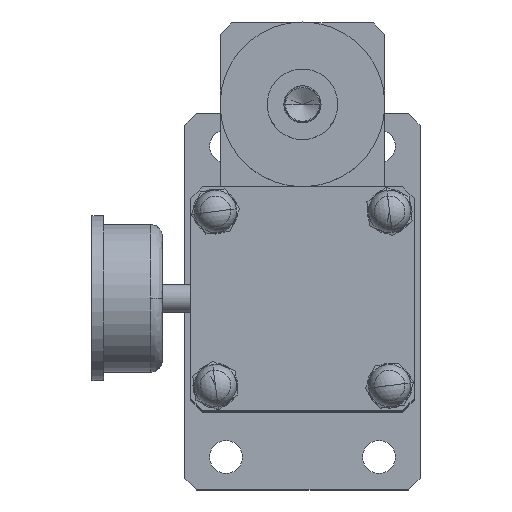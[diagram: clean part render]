
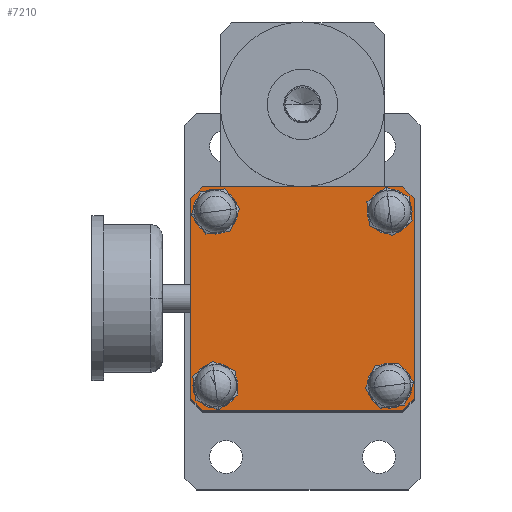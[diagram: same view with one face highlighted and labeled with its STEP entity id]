
A CAD part, top view. The second image highlights one B-rep face of the part: STEP entity #7210.
In plain terms, the highlighted planar face has unit normal (0, 0, 1).
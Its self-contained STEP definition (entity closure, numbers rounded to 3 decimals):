
#72 = EDGE_CURVE ( 'NONE', #6826, #3607, #3060, .T. ) ;
#73 = AXIS2_PLACEMENT_3D ( 'NONE', #3588, #8266, #6380 ) ;
#74 = CARTESIAN_POINT ( 'NONE',  ( -37., -37., 767. ) ) ;
#158 = AXIS2_PLACEMENT_3D ( 'NONE', #4018, #3459, #2782 ) ;
#180 = FACE_OUTER_BOUND ( 'NONE', #3999, .T. ) ;
#205 = VERTEX_POINT ( 'NONE', #6670 ) ;
#218 = FACE_BOUND ( 'NONE', #3974, .T. ) ;
#255 = EDGE_CURVE ( 'NONE', #551, #3051, #5769, .T. ) ;
#292 = DIRECTION ( 'NONE',  ( -0.707, -0.707, 0. ) ) ;
#308 = DIRECTION ( 'NONE',  ( 1., 0., 0. ) ) ;
#348 = DIRECTION ( 'NONE',  ( -1., 0., 0. ) ) ;
#434 = ORIENTED_EDGE ( 'NONE', *, *, #2515, .T. ) ;
#551 = VERTEX_POINT ( 'NONE', #4726 ) ;
#627 = AXIS2_PLACEMENT_3D ( 'NONE', #1016, #5589, #1608 ) ;
#650 = DIRECTION ( 'NONE',  ( -1., 0., 0. ) ) ;
#714 = LINE ( 'NONE', #3316, #7720 ) ;
#818 = FACE_BOUND ( 'NONE', #6376, .T. ) ;
#986 = ORIENTED_EDGE ( 'NONE', *, *, #6314, .T. ) ;
#988 = CARTESIAN_POINT ( 'NONE',  ( 47.5, -47.5, 767. ) ) ;
#991 = EDGE_CURVE ( 'NONE', #3607, #6826, #4509, .T. ) ;
#1016 = CARTESIAN_POINT ( 'NONE',  ( -37., 37., 767. ) ) ;
#1041 = DIRECTION ( 'NONE',  ( -1., 0., 0. ) ) ;
#1084 = DIRECTION ( 'NONE',  ( 0., 0., -1. ) ) ;
#1138 = VERTEX_POINT ( 'NONE', #5608 ) ;
#1312 = VECTOR ( 'NONE', #4574, 1000. ) ;
#1527 = ORIENTED_EDGE ( 'NONE', *, *, #7129, .T. ) ;
#1529 = CARTESIAN_POINT ( 'NONE',  ( -47.5, 42.5, 767. ) ) ;
#1546 = ORIENTED_EDGE ( 'NONE', *, *, #2824, .T. ) ;
#1608 = DIRECTION ( 'NONE',  ( -1., 0., 0. ) ) ;
#2002 = CARTESIAN_POINT ( 'NONE',  ( -42.5, -47.5, 767. ) ) ;
#2003 = ORIENTED_EDGE ( 'NONE', *, *, #991, .T. ) ;
#2033 = VECTOR ( 'NONE', #292, 1000. ) ;
#2104 = ORIENTED_EDGE ( 'NONE', *, *, #8211, .T. ) ;
#2123 = VERTEX_POINT ( 'NONE', #4460 ) ;
#2144 = VERTEX_POINT ( 'NONE', #4503 ) ;
#2178 = CARTESIAN_POINT ( 'NONE',  ( -47.5, 47.5, 767. ) ) ;
#2192 = VERTEX_POINT ( 'NONE', #5068 ) ;
#2237 = VECTOR ( 'NONE', #2302, 1000. ) ;
#2255 = DIRECTION ( 'NONE',  ( -1., 0., 0. ) ) ;
#2289 = ORIENTED_EDGE ( 'NONE', *, *, #6492, .T. ) ;
#2301 = VERTEX_POINT ( 'NONE', #3275 ) ;
#2302 = DIRECTION ( 'NONE',  ( 0., 1., 0. ) ) ;
#2410 = CIRCLE ( 'NONE', #73, 6. ) ;
#2515 = EDGE_CURVE ( 'NONE', #8068, #205, #714, .T. ) ;
#2584 = VERTEX_POINT ( 'NONE', #7357 ) ;
#2782 = DIRECTION ( 'NONE',  ( -1., 0., 0. ) ) ;
#2824 = EDGE_CURVE ( 'NONE', #3415, #2301, #6564, .T. ) ;
#2875 = CARTESIAN_POINT ( 'NONE',  ( 37., -37., 767. ) ) ;
#2960 = EDGE_CURVE ( 'NONE', #5344, #1138, #3753, .T. ) ;
#3051 = VERTEX_POINT ( 'NONE', #8168 ) ;
#3060 = CIRCLE ( 'NONE', #5242, 6. ) ;
#3117 = EDGE_LOOP ( 'NONE', ( #2003, #8226 ) ) ;
#3199 = CARTESIAN_POINT ( 'NONE',  ( 47.5, -42.5, 767. ) ) ;
#3275 = CARTESIAN_POINT ( 'NONE',  ( -47.5, -42.5, 767. ) ) ;
#3316 = CARTESIAN_POINT ( 'NONE',  ( 42.5, 47.5, 767. ) ) ;
#3415 = VERTEX_POINT ( 'NONE', #7443 ) ;
#3459 = DIRECTION ( 'NONE',  ( 0., 0., -1. ) ) ;
#3501 = CARTESIAN_POINT ( 'NONE',  ( 0., 0., 767. ) ) ;
#3547 = CIRCLE ( 'NONE', #8077, 6. ) ;
#3588 = CARTESIAN_POINT ( 'NONE',  ( 37., 37., 767. ) ) ;
#3600 = ORIENTED_EDGE ( 'NONE', *, *, #6850, .T. ) ;
#3607 = VERTEX_POINT ( 'NONE', #7044 ) ;
#3632 = DIRECTION ( 'NONE',  ( 0., 0., -1. ) ) ;
#3753 = CIRCLE ( 'NONE', #627, 6. ) ;
#3889 = CARTESIAN_POINT ( 'NONE',  ( 37., 37., 767. ) ) ;
#3974 = EDGE_LOOP ( 'NONE', ( #4692, #2289 ) ) ;
#3999 = EDGE_LOOP ( 'NONE', ( #2104, #7527, #1546, #7241, #7687, #4379, #3600, #434 ) ) ;
#4018 = CARTESIAN_POINT ( 'NONE',  ( -37., -37., 767. ) ) ;
#4062 = FACE_BOUND ( 'NONE', #4935, .T. ) ;
#4142 = FACE_BOUND ( 'NONE', #3117, .T. ) ;
#4239 = CIRCLE ( 'NONE', #158, 6. ) ;
#4252 = ORIENTED_EDGE ( 'NONE', *, *, #6895, .T. ) ;
#4292 = AXIS2_PLACEMENT_3D ( 'NONE', #3889, #6423, #650 ) ;
#4379 = ORIENTED_EDGE ( 'NONE', *, *, #255, .T. ) ;
#4460 = CARTESIAN_POINT ( 'NONE',  ( 43., 37., 767. ) ) ;
#4474 = DIRECTION ( 'NONE',  ( 0., 0., -1. ) ) ;
#4503 = CARTESIAN_POINT ( 'NONE',  ( -42.5, 47.5, 767. ) ) ;
#4509 = CIRCLE ( 'NONE', #4919, 6. ) ;
#4574 = DIRECTION ( 'NONE',  ( 0., -1., 0. ) ) ;
#4589 = EDGE_CURVE ( 'NONE', #2144, #3415, #6110, .T. ) ;
#4618 = CARTESIAN_POINT ( 'NONE',  ( -43., 37., 767. ) ) ;
#4692 = ORIENTED_EDGE ( 'NONE', *, *, #2960, .T. ) ;
#4726 = CARTESIAN_POINT ( 'NONE',  ( 42.5, -47.5, 767. ) ) ;
#4919 = AXIS2_PLACEMENT_3D ( 'NONE', #2875, #3632, #348 ) ;
#4935 = EDGE_LOOP ( 'NONE', ( #986, #5727 ) ) ;
#5060 = VECTOR ( 'NONE', #308, 1000. ) ;
#5068 = CARTESIAN_POINT ( 'NONE',  ( -43., -37., 767. ) ) ;
#5122 = LINE ( 'NONE', #5910, #6640 ) ;
#5242 = AXIS2_PLACEMENT_3D ( 'NONE', #7755, #4474, #8354 ) ;
#5252 = DIRECTION ( 'NONE',  ( 0.707, -0.707, 0. ) ) ;
#5344 = VERTEX_POINT ( 'NONE', #4618 ) ;
#5357 = CARTESIAN_POINT ( 'NONE',  ( 47.5, 42.5, 767. ) ) ;
#5589 = DIRECTION ( 'NONE',  ( 0., 0., -1. ) ) ;
#5608 = CARTESIAN_POINT ( 'NONE',  ( -31., 37., 767. ) ) ;
#5627 = EDGE_CURVE ( 'NONE', #8423, #551, #7544, .T. ) ;
#5671 = CIRCLE ( 'NONE', #4292, 6. ) ;
#5678 = DIRECTION ( 'NONE',  ( 0.707, 0.707, 0. ) ) ;
#5687 = CARTESIAN_POINT ( 'NONE',  ( -47.5, -47.5, 767. ) ) ;
#5727 = ORIENTED_EDGE ( 'NONE', *, *, #5904, .T. ) ;
#5737 = VECTOR ( 'NONE', #2255, 1000. ) ;
#5769 = LINE ( 'NONE', #3199, #6474 ) ;
#5904 = EDGE_CURVE ( 'NONE', #2584, #2192, #4239, .T. ) ;
#5910 = CARTESIAN_POINT ( 'NONE',  ( -42.5, -47.5, 767. ) ) ;
#5930 = DIRECTION ( 'NONE',  ( -0.707, 0.707, 0. ) ) ;
#6018 = AXIS2_PLACEMENT_3D ( 'NONE', #74, #7963, #6587 ) ;
#6110 = LINE ( 'NONE', #1529, #2033 ) ;
#6296 = LINE ( 'NONE', #988, #2237 ) ;
#6314 = EDGE_CURVE ( 'NONE', #2192, #2584, #6973, .T. ) ;
#6376 = EDGE_LOOP ( 'NONE', ( #1527, #4252 ) ) ;
#6380 = DIRECTION ( 'NONE',  ( -1., 0., 0. ) ) ;
#6423 = DIRECTION ( 'NONE',  ( 0., 0., -1. ) ) ;
#6474 = VECTOR ( 'NONE', #5678, 1000. ) ;
#6492 = EDGE_CURVE ( 'NONE', #1138, #5344, #3547, .T. ) ;
#6564 = LINE ( 'NONE', #8410, #1312 ) ;
#6587 = DIRECTION ( 'NONE',  ( -1., 0., 0. ) ) ;
#6640 = VECTOR ( 'NONE', #5252, 1000. ) ;
#6670 = CARTESIAN_POINT ( 'NONE',  ( 42.5, 47.5, 767. ) ) ;
#6676 = DIRECTION ( 'NONE',  ( 0., 0., -1. ) ) ;
#6826 = VERTEX_POINT ( 'NONE', #7982 ) ;
#6850 = EDGE_CURVE ( 'NONE', #3051, #8068, #6296, .T. ) ;
#6895 = EDGE_CURVE ( 'NONE', #2123, #7595, #2410, .T. ) ;
#6973 = CIRCLE ( 'NONE', #6018, 6. ) ;
#7044 = CARTESIAN_POINT ( 'NONE',  ( 31., -37., 767. ) ) ;
#7058 = EDGE_CURVE ( 'NONE', #2301, #8423, #5122, .T. ) ;
#7129 = EDGE_CURVE ( 'NONE', #7595, #2123, #5671, .T. ) ;
#7210 = ADVANCED_FACE ( 'NONE', ( #218, #818, #4142, #4062, #180 ), #7453, .F. ) ;
#7241 = ORIENTED_EDGE ( 'NONE', *, *, #7058, .T. ) ;
#7338 = AXIS2_PLACEMENT_3D ( 'NONE', #3501, #6676, #7974 ) ;
#7357 = CARTESIAN_POINT ( 'NONE',  ( -31., -37., 767. ) ) ;
#7443 = CARTESIAN_POINT ( 'NONE',  ( -47.5, 42.5, 767. ) ) ;
#7453 = PLANE ( 'NONE',  #7338 ) ;
#7527 = ORIENTED_EDGE ( 'NONE', *, *, #4589, .T. ) ;
#7544 = LINE ( 'NONE', #5687, #5060 ) ;
#7595 = VERTEX_POINT ( 'NONE', #7779 ) ;
#7599 = CARTESIAN_POINT ( 'NONE',  ( -37., 37., 767. ) ) ;
#7687 = ORIENTED_EDGE ( 'NONE', *, *, #5627, .T. ) ;
#7720 = VECTOR ( 'NONE', #5930, 1000. ) ;
#7755 = CARTESIAN_POINT ( 'NONE',  ( 37., -37., 767. ) ) ;
#7779 = CARTESIAN_POINT ( 'NONE',  ( 31., 37., 767. ) ) ;
#7963 = DIRECTION ( 'NONE',  ( 0., 0., -1. ) ) ;
#7974 = DIRECTION ( 'NONE',  ( -1., 0., 0. ) ) ;
#7982 = CARTESIAN_POINT ( 'NONE',  ( 43., -37., 767. ) ) ;
#8066 = LINE ( 'NONE', #2178, #5737 ) ;
#8068 = VERTEX_POINT ( 'NONE', #5357 ) ;
#8077 = AXIS2_PLACEMENT_3D ( 'NONE', #7599, #1084, #1041 ) ;
#8168 = CARTESIAN_POINT ( 'NONE',  ( 47.5, -42.5, 767. ) ) ;
#8211 = EDGE_CURVE ( 'NONE', #205, #2144, #8066, .T. ) ;
#8226 = ORIENTED_EDGE ( 'NONE', *, *, #72, .T. ) ;
#8266 = DIRECTION ( 'NONE',  ( 0., 0., -1. ) ) ;
#8354 = DIRECTION ( 'NONE',  ( -1., 0., 0. ) ) ;
#8410 = CARTESIAN_POINT ( 'NONE',  ( -47.5, -47.5, 767. ) ) ;
#8423 = VERTEX_POINT ( 'NONE', #2002 ) ;
